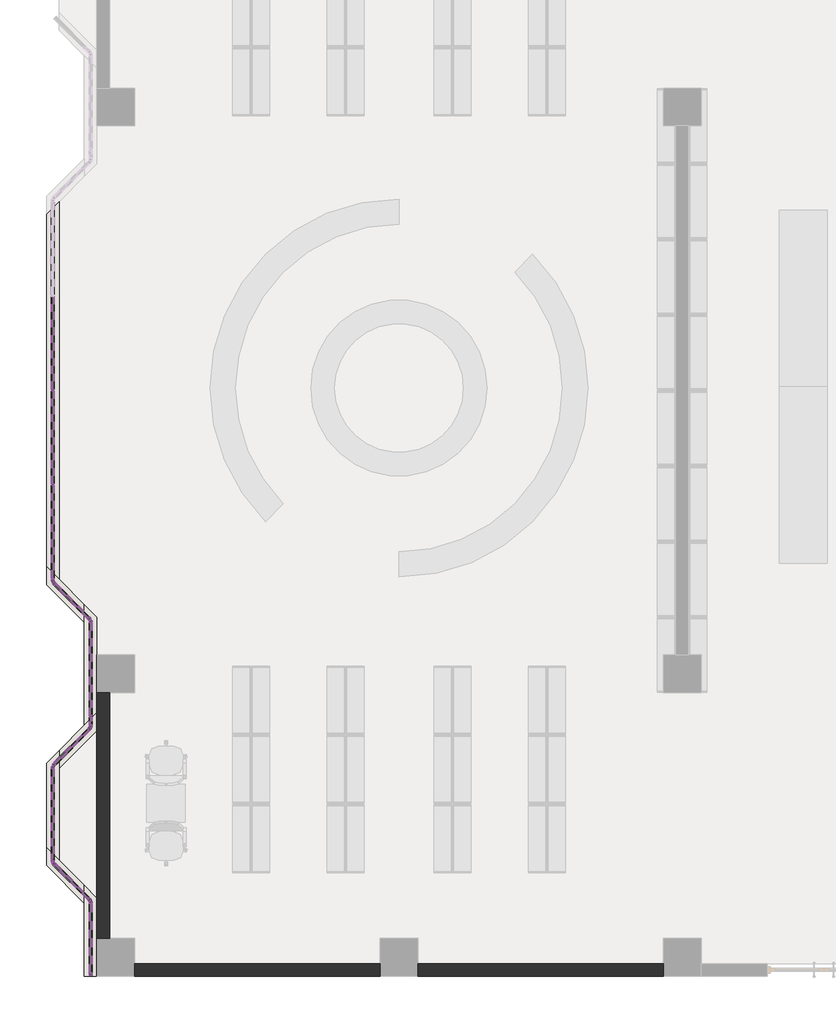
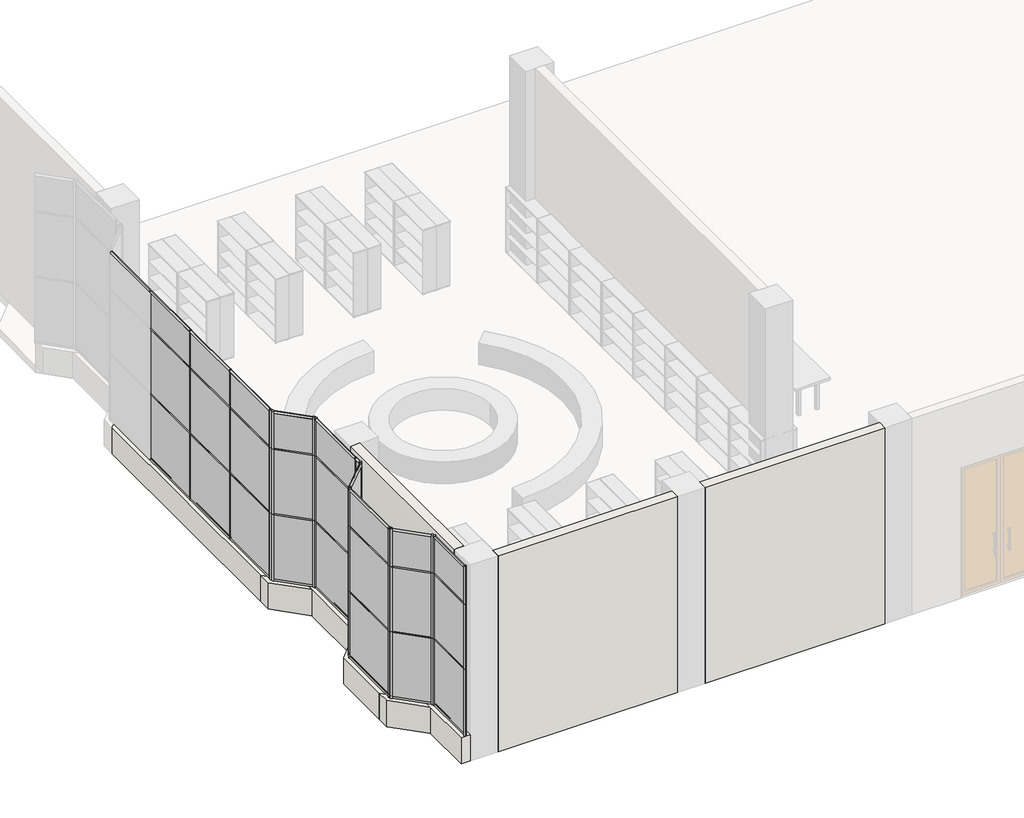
# One storey, part 1 of 6: 95 members, 30 plates, 10 walls.
"""IFC4 building model written with IfcOpenShell, lengths in millimetres."""

from ifc_helpers import new_model, si_unit, origin, origin_with_axes, place, context, project, spatial, polyline, outline, extrude, faceted_brep, transform, mapped, element, save
from components import member_cb4e50c7, member_f3a61f5a, member_936fc316, member_ce826986, member_b2874c62, member_844fc7d1, member_a19ce0de, member_3b68bbe8, member_416e91fe, member_e4634f50, member_39920356, member_1f987d58, member_65f70824, member_5b67f58a, plate_1ca0cd63, plate_9a7d06eb, plate_54ac635d, plate_9a913afb, plate_37a4c68e, plate_a56820a4, plate_a414dcb1, plate_d4bc9f12

model = new_model("IFC4")

# Units and contexts
model_context = context("Model", 3, world=origin())
ifc_project = project(units=[si_unit("LENGTHUNIT", "METRE", prefix="MILLI")], contexts=[model_context])

# Site, building, storey
site = spatial("IfcSite", under=ifc_project)
building = spatial("IfcBuilding", under=site)
storey = spatial("IfcBuildingStorey", under=building, Name="标高 1", Elevation=0.0)

# Members
placement = place(None, origin())
member_shape = member_cb4e50c7(model_context)
element("IfcMember", 1, ObjectType="圆形竖梃 : 25mm 半径", at=placement, inside=storey, context=model_context, shape_type="MappedRepresentation", body=[
    mapped(member_shape, transform((-8832.6683839, -11875.464179, 4500.0), x_axis=(0.0, 0.0, 1.0), y_axis=(-1.0, 0.0, 0.0), z_axis=(0.0, -1.0, 0.0))),
])
element("IfcMember", 2, ObjectType="圆形竖梃 : 25mm 半径", at=placement, inside=storey, context=model_context, shape_type="MappedRepresentation", body=[
    mapped(member_shape, transform((-8832.6683839, -10775.464179, 600.0), x_axis=(0.0, 0.0, -1.0), y_axis=(-1.0, 0.0, 0.0), z_axis=(0.0, 1.0, 0.0))),
])
member_2_shape = member_f3a61f5a(model_context)
element("IfcMember", 3, ObjectType="矩形竖梃 : 30mm 正方形", at=placement, inside=storey, context=model_context, shape_type="MappedRepresentation", body=[
    mapped(member_2_shape, transform((-8832.6683839, -11875.464179, 2135.0), x_axis=(0.0, 0.0, 1.0), y_axis=(-1.0, 0.0, 0.0), z_axis=(0.0, -1.0, 0.0))),
])
element("IfcMember", 4, ObjectType="矩形竖梃 : 30mm 正方形", at=placement, inside=storey, context=model_context, shape_type="MappedRepresentation", body=[
    mapped(member_2_shape, transform((-8832.6683839, -11875.464179, 3635.0), x_axis=(0.0, 0.0, 1.0), y_axis=(-1.0, 0.0, 0.0), z_axis=(0.0, -1.0, 0.0))),
])
member_3_shape = member_936fc316(model_context)
element("IfcMember", 5, ObjectType="圆形竖梃 : 25mm 半径", at=placement, inside=storey, context=model_context, shape_type="MappedRepresentation", body=[
    mapped(member_3_shape, transform((-9432.6683839, -5666.8855353, 600.0), x_axis=(0.0, -1.0, 0.0), y_axis=(-1.0, 0.0, 0.0), z_axis=(0.0, 0.0, -1.0))),
])
element("IfcMember", 6, ObjectType="圆形竖梃 : 25mm 半径", at=placement, inside=storey, context=model_context, shape_type="MappedRepresentation", body=[
    mapped(member_3_shape, transform((-8832.6683839, -6266.8855353, 600.0), x_axis=(0.7071067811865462, -0.7071067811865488, 0.0), y_axis=(-0.7071067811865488, -0.7071067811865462, 0.0), z_axis=(0.0, 0.0, -1.0))),
])
element("IfcMember", 7, ObjectType="圆形竖梃 : 25mm 半径", at=placement, inside=storey, context=model_context, shape_type="MappedRepresentation", body=[
    mapped(member_3_shape, transform((-8832.6683839, -7984.0428228, 600.0), x_axis=(0.0, -1.0, 0.0), y_axis=(-1.0, 0.0, 0.0), z_axis=(0.0, 0.0, -1.0))),
])
element("IfcMember", 8, ObjectType="圆形竖梃 : 25mm 半径", at=placement, inside=storey, context=model_context, shape_type="MappedRepresentation", body=[
    mapped(member_3_shape, transform((-9432.6683839, -8584.0428228, 600.0), x_axis=(-0.7071067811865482, -0.7071067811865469, 0.0), y_axis=(-0.7071067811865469, 0.7071067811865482, 0.0), z_axis=(0.0, 0.0, -1.0))),
])
element("IfcMember", 9, ObjectType="圆形竖梃 : 25mm 半径", at=placement, inside=storey, context=model_context, shape_type="MappedRepresentation", body=[
    mapped(member_3_shape, transform((-8832.6683839, -10725.464179, 600.0), x_axis=(0.7071067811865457, -0.7071067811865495, 0.0), y_axis=(-0.7071067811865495, -0.7071067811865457, 0.0), z_axis=(0.0, 0.0, -1.0))),
])
element("IfcMember", 10, ObjectType="圆形竖梃 : 25mm 半径", at=placement, inside=storey, context=model_context, shape_type="MappedRepresentation", body=[
    mapped(member_3_shape, transform((-8832.6683839, -11925.464179, 600.0), x_axis=(0.0, -1.0, 0.0), y_axis=(-1.0, 0.0, 0.0), z_axis=(0.0, 0.0, -1.0))),
])
member_4_shape = member_ce826986(model_context)
element("IfcMember", 11, ObjectType="圆形竖梃 : 25mm 半径", at=placement, inside=storey, context=model_context, shape_type="MappedRepresentation", body=[
    mapped(member_4_shape, transform((-9432.6683839, -5666.8855353, 2135.0), x_axis=(0.0, -1.0, 0.0), y_axis=(-1.0, 0.0, 0.0), z_axis=(0.0, 0.0, -1.0))),
])
element("IfcMember", 12, ObjectType="圆形竖梃 : 25mm 半径", at=placement, inside=storey, context=model_context, shape_type="MappedRepresentation", body=[
    mapped(member_4_shape, transform((-8832.6683839, -6266.8855353, 2135.0), x_axis=(0.7071067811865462, -0.7071067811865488, 0.0), y_axis=(-0.7071067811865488, -0.7071067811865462, 0.0), z_axis=(0.0, 0.0, -1.0))),
])
element("IfcMember", 13, ObjectType="圆形竖梃 : 25mm 半径", at=placement, inside=storey, context=model_context, shape_type="MappedRepresentation", body=[
    mapped(member_4_shape, transform((-8832.6683839, -7984.0428228, 2135.0), x_axis=(0.0, -1.0, 0.0), y_axis=(-1.0, 0.0, 0.0), z_axis=(0.0, 0.0, -1.0))),
])
element("IfcMember", 14, ObjectType="圆形竖梃 : 25mm 半径", at=placement, inside=storey, context=model_context, shape_type="MappedRepresentation", body=[
    mapped(member_4_shape, transform((-9432.6683839, -8584.0428228, 2135.0), x_axis=(-0.7071067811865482, -0.7071067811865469, 0.0), y_axis=(-0.7071067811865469, 0.7071067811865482, 0.0), z_axis=(0.0, 0.0, -1.0))),
])
element("IfcMember", 15, ObjectType="圆形竖梃 : 25mm 半径", at=placement, inside=storey, context=model_context, shape_type="MappedRepresentation", body=[
    mapped(member_4_shape, transform((-8832.6683839, -10725.464179, 2135.0), x_axis=(0.7071067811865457, -0.7071067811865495, 0.0), y_axis=(-0.7071067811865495, -0.7071067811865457, 0.0), z_axis=(0.0, 0.0, -1.0))),
])
element("IfcMember", 16, ObjectType="圆形竖梃 : 25mm 半径", at=placement, inside=storey, context=model_context, shape_type="MappedRepresentation", body=[
    mapped(member_4_shape, transform((-8832.6683839, -11925.464179, 2135.0), x_axis=(0.0, -1.0, 0.0), y_axis=(-1.0, 0.0, 0.0), z_axis=(0.0, 0.0, -1.0))),
])
member_5_shape = member_b2874c62(model_context)
element("IfcMember", 17, ObjectType="圆形竖梃 : 25mm 半径", at=placement, inside=storey, context=model_context, shape_type="MappedRepresentation", body=[
    mapped(member_5_shape, transform((-9432.6683839, -5666.8855353, 3635.0), x_axis=(0.0, -1.0, 0.0), y_axis=(-1.0, 0.0, 0.0), z_axis=(0.0, 0.0, -1.0))),
])
element("IfcMember", 18, ObjectType="圆形竖梃 : 25mm 半径", at=placement, inside=storey, context=model_context, shape_type="MappedRepresentation", body=[
    mapped(member_5_shape, transform((-8832.6683839, -6266.8855353, 3635.0), x_axis=(0.7071067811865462, -0.7071067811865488, 0.0), y_axis=(-0.7071067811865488, -0.7071067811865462, 0.0), z_axis=(0.0, 0.0, -1.0))),
])
element("IfcMember", 19, ObjectType="圆形竖梃 : 25mm 半径", at=placement, inside=storey, context=model_context, shape_type="MappedRepresentation", body=[
    mapped(member_5_shape, transform((-8832.6683839, -7984.0428228, 3635.0), x_axis=(0.0, -1.0, 0.0), y_axis=(-1.0, 0.0, 0.0), z_axis=(0.0, 0.0, -1.0))),
])
element("IfcMember", 20, ObjectType="圆形竖梃 : 25mm 半径", at=placement, inside=storey, context=model_context, shape_type="MappedRepresentation", body=[
    mapped(member_5_shape, transform((-9432.6683839, -8584.0428228, 3635.0), x_axis=(-0.7071067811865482, -0.7071067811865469, 0.0), y_axis=(-0.7071067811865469, 0.7071067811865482, 0.0), z_axis=(0.0, 0.0, -1.0))),
])
element("IfcMember", 21, ObjectType="圆形竖梃 : 25mm 半径", at=placement, inside=storey, context=model_context, shape_type="MappedRepresentation", body=[
    mapped(member_5_shape, transform((-8832.6683839, -10725.464179, 3635.0), x_axis=(0.7071067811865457, -0.7071067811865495, 0.0), y_axis=(-0.7071067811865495, -0.7071067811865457, 0.0), z_axis=(0.0, 0.0, -1.0))),
])
element("IfcMember", 22, ObjectType="圆形竖梃 : 25mm 半径", at=placement, inside=storey, context=model_context, shape_type="MappedRepresentation", body=[
    mapped(member_5_shape, transform((-8832.6683839, -11925.464179, 3635.0), x_axis=(0.0, -1.0, 0.0), y_axis=(-1.0, 0.0, 0.0), z_axis=(0.0, 0.0, -1.0))),
])
element("IfcMember", 23, ObjectType="圆形竖梃 : 25mm 半径", at=placement, inside=storey, context=model_context, shape_type="MappedRepresentation", body=[
    mapped(member_5_shape, transform((-9432.6683839, -5666.8855353, 4500.0), x_axis=(-0.7071067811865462, 0.7071067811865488, 0.0), y_axis=(-0.7071067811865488, -0.7071067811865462, 0.0), z_axis=(0.0, 0.0, 1.0))),
])
element("IfcMember", 24, ObjectType="圆形竖梃 : 25mm 半径", at=placement, inside=storey, context=model_context, shape_type="MappedRepresentation", body=[
    mapped(member_5_shape, transform((-8832.6683839, -6266.8855353, 4500.0), x_axis=(0.0, 1.0, 0.0), y_axis=(-1.0, 0.0, 0.0), z_axis=(0.0, 0.0, 1.0))),
])
element("IfcMember", 25, ObjectType="圆形竖梃 : 25mm 半径", at=placement, inside=storey, context=model_context, shape_type="MappedRepresentation", body=[
    mapped(member_5_shape, transform((-8832.6683839, -7984.0428228, 4500.0), x_axis=(0.7071067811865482, 0.7071067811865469, 0.0), y_axis=(-0.7071067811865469, 0.7071067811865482, 0.0), z_axis=(0.0, 0.0, 1.0))),
])
element("IfcMember", 26, ObjectType="圆形竖梃 : 25mm 半径", at=placement, inside=storey, context=model_context, shape_type="MappedRepresentation", body=[
    mapped(member_5_shape, transform((-9432.6683839, -8584.0428228, 4500.0), x_axis=(0.0, 1.0, 0.0), y_axis=(-1.0, 0.0, 0.0), z_axis=(0.0, 0.0, 1.0))),
])
element("IfcMember", 27, ObjectType="圆形竖梃 : 25mm 半径", at=placement, inside=storey, context=model_context, shape_type="MappedRepresentation", body=[
    mapped(member_5_shape, transform((-9432.6683839, -10125.464179, 4500.0), x_axis=(-0.7071067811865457, 0.7071067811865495, 0.0), y_axis=(-0.7071067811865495, -0.7071067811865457, 0.0), z_axis=(0.0, 0.0, 1.0))),
])
element("IfcMember", 28, ObjectType="圆形竖梃 : 25mm 半径", at=placement, inside=storey, context=model_context, shape_type="MappedRepresentation", body=[
    mapped(member_5_shape, transform((-8832.6683839, -10725.464179, 4500.0), x_axis=(0.0, 1.0, 0.0), y_axis=(-1.0, 0.0, 0.0), z_axis=(0.0, 0.0, 1.0))),
])
element("IfcMember", 29, ObjectType="圆形竖梃 : 25mm 半径", at=placement, inside=storey, context=model_context, shape_type="MappedRepresentation", body=[
    mapped(member_3_shape, transform((-9432.6683839, -5666.8855353, 2135.0), x_axis=(-0.7071067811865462, 0.7071067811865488, 0.0), y_axis=(-0.7071067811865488, -0.7071067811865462, 0.0), z_axis=(0.0, 0.0, 1.0))),
])
element("IfcMember", 30, ObjectType="圆形竖梃 : 25mm 半径", at=placement, inside=storey, context=model_context, shape_type="MappedRepresentation", body=[
    mapped(member_3_shape, transform((-8832.6683839, -6266.8855353, 2135.0), x_axis=(0.0, 1.0, 0.0), y_axis=(-1.0, 0.0, 0.0), z_axis=(0.0, 0.0, 1.0))),
])
element("IfcMember", 31, ObjectType="圆形竖梃 : 25mm 半径", at=placement, inside=storey, context=model_context, shape_type="MappedRepresentation", body=[
    mapped(member_3_shape, transform((-8832.6683839, -7984.0428228, 2135.0), x_axis=(0.7071067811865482, 0.7071067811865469, 0.0), y_axis=(-0.7071067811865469, 0.7071067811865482, 0.0), z_axis=(0.0, 0.0, 1.0))),
])
element("IfcMember", 32, ObjectType="圆形竖梃 : 25mm 半径", at=placement, inside=storey, context=model_context, shape_type="MappedRepresentation", body=[
    mapped(member_3_shape, transform((-9432.6683839, -8584.0428228, 2135.0), x_axis=(0.0, 1.0, 0.0), y_axis=(-1.0, 0.0, 0.0), z_axis=(0.0, 0.0, 1.0))),
])
element("IfcMember", 33, ObjectType="圆形竖梃 : 25mm 半径", at=placement, inside=storey, context=model_context, shape_type="MappedRepresentation", body=[
    mapped(member_3_shape, transform((-9432.6683839, -10125.464179, 2135.0), x_axis=(-0.7071067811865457, 0.7071067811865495, 0.0), y_axis=(-0.7071067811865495, -0.7071067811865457, 0.0), z_axis=(0.0, 0.0, 1.0))),
])
element("IfcMember", 34, ObjectType="圆形竖梃 : 25mm 半径", at=placement, inside=storey, context=model_context, shape_type="MappedRepresentation", body=[
    mapped(member_3_shape, transform((-8832.6683839, -10725.464179, 2135.0), x_axis=(0.0, 1.0, 0.0), y_axis=(-1.0, 0.0, 0.0), z_axis=(0.0, 0.0, 1.0))),
])
element("IfcMember", 35, ObjectType="圆形竖梃 : 25mm 半径", at=placement, inside=storey, context=model_context, shape_type="MappedRepresentation", body=[
    mapped(member_4_shape, transform((-9432.6683839, -5666.8855353, 3635.0), x_axis=(-0.7071067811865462, 0.7071067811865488, 0.0), y_axis=(-0.7071067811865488, -0.7071067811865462, 0.0), z_axis=(0.0, 0.0, 1.0))),
])
element("IfcMember", 36, ObjectType="圆形竖梃 : 25mm 半径", at=placement, inside=storey, context=model_context, shape_type="MappedRepresentation", body=[
    mapped(member_4_shape, transform((-8832.6683839, -6266.8855353, 3635.0), x_axis=(0.0, 1.0, 0.0), y_axis=(-1.0, 0.0, 0.0), z_axis=(0.0, 0.0, 1.0))),
])
element("IfcMember", 37, ObjectType="圆形竖梃 : 25mm 半径", at=placement, inside=storey, context=model_context, shape_type="MappedRepresentation", body=[
    mapped(member_4_shape, transform((-8832.6683839, -7984.0428228, 3635.0), x_axis=(0.7071067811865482, 0.7071067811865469, 0.0), y_axis=(-0.7071067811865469, 0.7071067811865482, 0.0), z_axis=(0.0, 0.0, 1.0))),
])
element("IfcMember", 38, ObjectType="圆形竖梃 : 25mm 半径", at=placement, inside=storey, context=model_context, shape_type="MappedRepresentation", body=[
    mapped(member_4_shape, transform((-9432.6683839, -8584.0428228, 3635.0), x_axis=(0.0, 1.0, 0.0), y_axis=(-1.0, 0.0, 0.0), z_axis=(0.0, 0.0, 1.0))),
])
element("IfcMember", 39, ObjectType="圆形竖梃 : 25mm 半径", at=placement, inside=storey, context=model_context, shape_type="MappedRepresentation", body=[
    mapped(member_4_shape, transform((-9432.6683839, -10125.464179, 3635.0), x_axis=(-0.7071067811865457, 0.7071067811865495, 0.0), y_axis=(-0.7071067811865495, -0.7071067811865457, 0.0), z_axis=(0.0, 0.0, 1.0))),
])
element("IfcMember", 40, ObjectType="圆形竖梃 : 25mm 半径", at=placement, inside=storey, context=model_context, shape_type="MappedRepresentation", body=[
    mapped(member_4_shape, transform((-8832.6683839, -10725.464179, 3635.0), x_axis=(0.0, 1.0, 0.0), y_axis=(-1.0, 0.0, 0.0), z_axis=(0.0, 0.0, 1.0))),
])
member_6_shape = member_844fc7d1(model_context)
element("IfcMember", 41, ObjectType="圆形竖梃 : 25mm 半径", at=placement, inside=storey, context=model_context, shape_type="MappedRepresentation", body=[
    mapped(member_6_shape, transform((-8868.023723, -6231.5301962, 4500.0), x_axis=(0.0, 0.0, 1.0), y_axis=(-0.7071067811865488, -0.7071067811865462, 0.0), z_axis=(0.7071067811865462, -0.7071067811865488, 0.0))),
])
element("IfcMember", 42, ObjectType="圆形竖梃 : 25mm 半径", at=placement, inside=storey, context=model_context, shape_type="MappedRepresentation", body=[
    mapped(member_6_shape, transform((-9397.3130449, -8548.6874837, 4500.0), x_axis=(0.0, 0.0, 1.0), y_axis=(-0.7071067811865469, 0.7071067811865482, 0.0), z_axis=(-0.7071067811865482, -0.7071067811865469, 0.0))),
])
element("IfcMember", 43, ObjectType="圆形竖梃 : 25mm 半径", at=placement, inside=storey, context=model_context, shape_type="MappedRepresentation", body=[
    mapped(member_6_shape, transform((-8868.023723, -10690.10884, 4500.0), x_axis=(0.0, 0.0, 1.0), y_axis=(-0.7071067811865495, -0.7071067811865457, 0.0), z_axis=(0.7071067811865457, -0.7071067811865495, 0.0))),
])
element("IfcMember", 44, ObjectType="圆形竖梃 : 25mm 半径", at=placement, inside=storey, context=model_context, shape_type="MappedRepresentation", body=[
    mapped(member_6_shape, transform((-9397.3130449, -5702.2408743, 600.0), x_axis=(0.0, 0.0, -1.0), y_axis=(-0.7071067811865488, -0.7071067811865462, 0.0), z_axis=(-0.7071067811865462, 0.7071067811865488, 0.0))),
])
element("IfcMember", 45, ObjectType="圆形竖梃 : 25mm 半径", at=placement, inside=storey, context=model_context, shape_type="MappedRepresentation", body=[
    mapped(member_6_shape, transform((-8868.023723, -8019.3981618, 600.0), x_axis=(0.0, 0.0, -1.0), y_axis=(-0.7071067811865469, 0.7071067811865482, 0.0), z_axis=(0.7071067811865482, 0.7071067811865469, 0.0))),
])
element("IfcMember", 46, ObjectType="圆形竖梃 : 25mm 半径", at=placement, inside=storey, context=model_context, shape_type="MappedRepresentation", body=[
    mapped(member_6_shape, transform((-9397.3130449, -10160.8195181, 600.0), x_axis=(0.0, 0.0, -1.0), y_axis=(-0.7071067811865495, -0.7071067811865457, 0.0), z_axis=(-0.7071067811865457, 0.7071067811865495, 0.0))),
])
member_7_shape = member_a19ce0de(model_context)
element("IfcMember", 47, ObjectType="矩形竖梃 : 30mm 正方形", at=placement, inside=storey, context=model_context, shape_type="MappedRepresentation", body=[
    mapped(member_7_shape, transform((-8868.023723, -6231.5301962, 2135.0), x_axis=(0.0, 0.0, 1.0), y_axis=(-0.7071067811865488, -0.7071067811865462, 0.0), z_axis=(0.7071067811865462, -0.7071067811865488, 0.0))),
])
element("IfcMember", 48, ObjectType="矩形竖梃 : 30mm 正方形", at=placement, inside=storey, context=model_context, shape_type="MappedRepresentation", body=[
    mapped(member_7_shape, transform((-8868.023723, -6231.5301962, 3635.0), x_axis=(0.0, 0.0, 1.0), y_axis=(-0.7071067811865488, -0.7071067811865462, 0.0), z_axis=(0.7071067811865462, -0.7071067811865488, 0.0))),
])
element("IfcMember", 49, ObjectType="矩形竖梃 : 30mm 正方形", at=placement, inside=storey, context=model_context, shape_type="MappedRepresentation", body=[
    mapped(member_7_shape, transform((-9397.3130449, -8548.6874837, 2135.0), x_axis=(0.0, 0.0, 1.0), y_axis=(-0.7071067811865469, 0.7071067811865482, 0.0), z_axis=(-0.7071067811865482, -0.7071067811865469, 0.0))),
])
element("IfcMember", 50, ObjectType="矩形竖梃 : 30mm 正方形", at=placement, inside=storey, context=model_context, shape_type="MappedRepresentation", body=[
    mapped(member_7_shape, transform((-9397.3130449, -8548.6874837, 3635.0), x_axis=(0.0, 0.0, 1.0), y_axis=(-0.7071067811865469, 0.7071067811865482, 0.0), z_axis=(-0.7071067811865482, -0.7071067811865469, 0.0))),
])
element("IfcMember", 51, ObjectType="矩形竖梃 : 30mm 正方形", at=placement, inside=storey, context=model_context, shape_type="MappedRepresentation", body=[
    mapped(member_7_shape, transform((-8868.023723, -10690.10884, 2135.0), x_axis=(0.0, 0.0, 1.0), y_axis=(-0.7071067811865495, -0.7071067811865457, 0.0), z_axis=(0.7071067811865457, -0.7071067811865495, 0.0))),
])
element("IfcMember", 52, ObjectType="矩形竖梃 : 30mm 正方形", at=placement, inside=storey, context=model_context, shape_type="MappedRepresentation", body=[
    mapped(member_7_shape, transform((-8868.023723, -10690.10884, 3635.0), x_axis=(0.0, 0.0, 1.0), y_axis=(-0.7071067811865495, -0.7071067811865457, 0.0), z_axis=(0.7071067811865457, -0.7071067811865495, 0.0))),
])
member_8_shape = member_3b68bbe8(model_context)
element("IfcMember", 53, ObjectType="圆形竖梃 : 25mm 半径", at=placement, inside=storey, context=model_context, shape_type="MappedRepresentation", body=[
    mapped(member_8_shape, transform((-9432.6683839, -1104.0428231, 4500.0), x_axis=(0.0, 0.0, 1.0), y_axis=(-1.0, 0.0, 0.0), z_axis=(0.0, -1.0, 0.0))),
])
element("IfcMember", 54, ObjectType="圆形竖梃 : 25mm 半径", at=placement, inside=storey, context=model_context, shape_type="MappedRepresentation", body=[
    mapped(member_8_shape, transform((-9432.6683839, -2604.0428231, 4500.0), x_axis=(0.0, 0.0, 1.0), y_axis=(-1.0, 0.0, 0.0), z_axis=(0.0, -1.0, 0.0))),
])
element("IfcMember", 55, ObjectType="圆形竖梃 : 25mm 半径", at=placement, inside=storey, context=model_context, shape_type="MappedRepresentation", body=[
    mapped(member_8_shape, transform((-9432.6683839, -4104.0428231, 4500.0), x_axis=(0.0, 0.0, 1.0), y_axis=(-1.0, 0.0, 0.0), z_axis=(0.0, -1.0, 0.0))),
])
element("IfcMember", 56, ObjectType="圆形竖梃 : 25mm 半径", at=placement, inside=storey, context=model_context, shape_type="MappedRepresentation", body=[
    mapped(member_8_shape, transform((-9432.6683839, -5604.0428231, 4500.0), x_axis=(0.0, 0.0, 1.0), y_axis=(-1.0, 0.0, 0.0), z_axis=(0.0, -1.0, 0.0))),
])
element("IfcMember", 57, ObjectType="圆形竖梃 : 25mm 半径", at=placement, inside=storey, context=model_context, shape_type="MappedRepresentation", body=[
    mapped(member_8_shape, transform((-8832.6683839, -7786.8855356, 4500.0), x_axis=(0.0, 0.0, 1.0), y_axis=(-1.0, 0.0, 0.0), z_axis=(0.0, -1.0, 0.0))),
])
element("IfcMember", 58, ObjectType="圆形竖梃 : 25mm 半径", at=placement, inside=storey, context=model_context, shape_type="MappedRepresentation", body=[
    mapped(member_8_shape, transform((-9432.6683839, -10104.0428231, 4500.0), x_axis=(0.0, 0.0, 1.0), y_axis=(-1.0, 0.0, 0.0), z_axis=(0.0, -1.0, 0.0))),
])
element("IfcMember", 59, ObjectType="圆形竖梃 : 25mm 半径", at=placement, inside=storey, context=model_context, shape_type="MappedRepresentation", body=[
    mapped(member_8_shape, transform((-9432.6683839, -1134.0428231, 600.0), x_axis=(0.0, 0.0, -1.0), y_axis=(-1.0, 0.0, 0.0), z_axis=(0.0, 1.0, 0.0))),
])
element("IfcMember", 60, ObjectType="圆形竖梃 : 25mm 半径", at=placement, inside=storey, context=model_context, shape_type="MappedRepresentation", body=[
    mapped(member_8_shape, transform((-9432.6683839, -2634.0428231, 600.0), x_axis=(0.0, 0.0, -1.0), y_axis=(-1.0, 0.0, 0.0), z_axis=(0.0, 1.0, 0.0))),
])
element("IfcMember", 61, ObjectType="圆形竖梃 : 25mm 半径", at=placement, inside=storey, context=model_context, shape_type="MappedRepresentation", body=[
    mapped(member_8_shape, transform((-9432.6683839, -4134.0428231, 600.0), x_axis=(0.0, 0.0, -1.0), y_axis=(-1.0, 0.0, 0.0), z_axis=(0.0, 1.0, 0.0))),
])
element("IfcMember", 62, ObjectType="圆形竖梃 : 25mm 半径", at=placement, inside=storey, context=model_context, shape_type="MappedRepresentation", body=[
    mapped(member_8_shape, transform((-8832.6683839, -6316.8855353, 600.0), x_axis=(0.0, 0.0, -1.0), y_axis=(-1.0, 0.0, 0.0), z_axis=(0.0, 1.0, 0.0))),
])
element("IfcMember", 63, ObjectType="圆形竖梃 : 25mm 半径", at=placement, inside=storey, context=model_context, shape_type="MappedRepresentation", body=[
    mapped(member_8_shape, transform((-9432.6683839, -8634.0428228, 600.0), x_axis=(0.0, 0.0, -1.0), y_axis=(-1.0, 0.0, 0.0), z_axis=(0.0, 1.0, 0.0))),
])
member_9_shape = member_416e91fe(model_context)
element("IfcMember", 64, ObjectType="矩形竖梃 : 30mm 正方形", at=placement, inside=storey, context=model_context, shape_type="MappedRepresentation", body=[
    mapped(member_9_shape, transform((-9432.6683839, -2604.0428231, 2135.0), x_axis=(0.0, 0.0, 1.0), y_axis=(-1.0, 0.0, 0.0), z_axis=(0.0, -1.0, 0.0))),
])
element("IfcMember", 65, ObjectType="矩形竖梃 : 30mm 正方形", at=placement, inside=storey, context=model_context, shape_type="MappedRepresentation", body=[
    mapped(member_9_shape, transform((-9432.6683839, -4104.0428231, 2135.0), x_axis=(0.0, 0.0, 1.0), y_axis=(-1.0, 0.0, 0.0), z_axis=(0.0, -1.0, 0.0))),
])
element("IfcMember", 66, ObjectType="矩形竖梃 : 30mm 正方形", at=placement, inside=storey, context=model_context, shape_type="MappedRepresentation", body=[
    mapped(member_9_shape, transform((-9432.6683839, -5604.0428231, 2135.0), x_axis=(0.0, 0.0, 1.0), y_axis=(-1.0, 0.0, 0.0), z_axis=(0.0, -1.0, 0.0))),
])
element("IfcMember", 67, ObjectType="矩形竖梃 : 30mm 正方形", at=placement, inside=storey, context=model_context, shape_type="MappedRepresentation", body=[
    mapped(member_9_shape, transform((-9432.6683839, -2604.0428231, 3635.0), x_axis=(0.0, 0.0, 1.0), y_axis=(-1.0, 0.0, 0.0), z_axis=(0.0, -1.0, 0.0))),
])
element("IfcMember", 68, ObjectType="矩形竖梃 : 30mm 正方形", at=placement, inside=storey, context=model_context, shape_type="MappedRepresentation", body=[
    mapped(member_9_shape, transform((-9432.6683839, -4104.0428231, 3635.0), x_axis=(0.0, 0.0, 1.0), y_axis=(-1.0, 0.0, 0.0), z_axis=(0.0, -1.0, 0.0))),
])
element("IfcMember", 69, ObjectType="矩形竖梃 : 30mm 正方形", at=placement, inside=storey, context=model_context, shape_type="MappedRepresentation", body=[
    mapped(member_9_shape, transform((-9432.6683839, -5604.0428231, 3635.0), x_axis=(0.0, 0.0, 1.0), y_axis=(-1.0, 0.0, 0.0), z_axis=(0.0, -1.0, 0.0))),
])
element("IfcMember", 70, ObjectType="矩形竖梃 : 30mm 正方形", at=placement, inside=storey, context=model_context, shape_type="MappedRepresentation", body=[
    mapped(member_9_shape, transform((-8832.6683839, -7786.8855356, 2135.0), x_axis=(0.0, 0.0, 1.0), y_axis=(-1.0, 0.0, 0.0), z_axis=(0.0, -1.0, 0.0))),
])
element("IfcMember", 71, ObjectType="矩形竖梃 : 30mm 正方形", at=placement, inside=storey, context=model_context, shape_type="MappedRepresentation", body=[
    mapped(member_9_shape, transform((-8832.6683839, -7786.8855356, 3635.0), x_axis=(0.0, 0.0, 1.0), y_axis=(-1.0, 0.0, 0.0), z_axis=(0.0, -1.0, 0.0))),
])
element("IfcMember", 72, ObjectType="矩形竖梃 : 30mm 正方形", at=placement, inside=storey, context=model_context, shape_type="MappedRepresentation", body=[
    mapped(member_9_shape, transform((-9432.6683839, -10104.0428231, 2135.0), x_axis=(0.0, 0.0, 1.0), y_axis=(-1.0, 0.0, 0.0), z_axis=(0.0, -1.0, 0.0))),
])
element("IfcMember", 73, ObjectType="矩形竖梃 : 30mm 正方形", at=placement, inside=storey, context=model_context, shape_type="MappedRepresentation", body=[
    mapped(member_9_shape, transform((-9432.6683839, -10104.0428231, 3635.0), x_axis=(0.0, 0.0, 1.0), y_axis=(-1.0, 0.0, 0.0), z_axis=(0.0, -1.0, 0.0))),
])
member_10_shape = member_e4634f50(model_context)
element("IfcMember", 74, ObjectType="矩形竖梃 : 30mm 正方形", at=placement, inside=storey, context=model_context, shape_type="MappedRepresentation", body=[
    mapped(member_10_shape, transform((-9432.6683839, -2619.0428231, 600.0), x_axis=(0.0, -1.0, 0.0), y_axis=(-1.0, 0.0, 0.0), z_axis=(0.0, 0.0, -1.0))),
])
element("IfcMember", 75, ObjectType="矩形竖梃 : 30mm 正方形", at=placement, inside=storey, context=model_context, shape_type="MappedRepresentation", body=[
    mapped(member_10_shape, transform((-9432.6683839, -4119.0428231, 600.0), x_axis=(0.0, -1.0, 0.0), y_axis=(-1.0, 0.0, 0.0), z_axis=(0.0, 0.0, -1.0))),
])
element("IfcMember", 76, ObjectType="矩形竖梃 : 30mm 正方形", at=placement, inside=storey, context=model_context, shape_type="MappedRepresentation", body=[
    mapped(member_10_shape, transform((-9432.6683839, -5619.0428231, 600.0), x_axis=(0.0, -1.0, 0.0), y_axis=(-1.0, 0.0, 0.0), z_axis=(0.0, 0.0, -1.0))),
])
element("IfcMember", 77, ObjectType="矩形竖梃 : 30mm 正方形", at=placement, inside=storey, context=model_context, shape_type="MappedRepresentation", body=[
    mapped(member_10_shape, transform((-8832.6683839, -7801.8855356, 600.0), x_axis=(0.0, -1.0, 0.0), y_axis=(-1.0, 0.0, 0.0), z_axis=(0.0, 0.0, -1.0))),
])
element("IfcMember", 78, ObjectType="矩形竖梃 : 30mm 正方形", at=placement, inside=storey, context=model_context, shape_type="MappedRepresentation", body=[
    mapped(member_10_shape, transform((-9432.6683839, -10119.0428231, 600.0), x_axis=(0.0, -1.0, 0.0), y_axis=(-1.0, 0.0, 0.0), z_axis=(0.0, 0.0, -1.0))),
])
member_11_shape = member_39920356(model_context)
element("IfcMember", 79, ObjectType="矩形竖梃 : 30mm 正方形", at=placement, inside=storey, context=model_context, shape_type="MappedRepresentation", body=[
    mapped(member_11_shape, transform((-9432.6683839, -2619.0428231, 2135.0), x_axis=(0.0, -1.0, 0.0), y_axis=(-1.0, 0.0, 0.0), z_axis=(0.0, 0.0, -1.0))),
])
element("IfcMember", 80, ObjectType="矩形竖梃 : 30mm 正方形", at=placement, inside=storey, context=model_context, shape_type="MappedRepresentation", body=[
    mapped(member_11_shape, transform((-9432.6683839, -4119.0428231, 2135.0), x_axis=(0.0, -1.0, 0.0), y_axis=(-1.0, 0.0, 0.0), z_axis=(0.0, 0.0, -1.0))),
])
element("IfcMember", 81, ObjectType="矩形竖梃 : 30mm 正方形", at=placement, inside=storey, context=model_context, shape_type="MappedRepresentation", body=[
    mapped(member_11_shape, transform((-9432.6683839, -5619.0428231, 2135.0), x_axis=(0.0, -1.0, 0.0), y_axis=(-1.0, 0.0, 0.0), z_axis=(0.0, 0.0, -1.0))),
])
element("IfcMember", 82, ObjectType="矩形竖梃 : 30mm 正方形", at=placement, inside=storey, context=model_context, shape_type="MappedRepresentation", body=[
    mapped(member_11_shape, transform((-8832.6683839, -7801.8855356, 2135.0), x_axis=(0.0, -1.0, 0.0), y_axis=(-1.0, 0.0, 0.0), z_axis=(0.0, 0.0, -1.0))),
])
element("IfcMember", 83, ObjectType="矩形竖梃 : 30mm 正方形", at=placement, inside=storey, context=model_context, shape_type="MappedRepresentation", body=[
    mapped(member_11_shape, transform((-9432.6683839, -10119.0428231, 2135.0), x_axis=(0.0, -1.0, 0.0), y_axis=(-1.0, 0.0, 0.0), z_axis=(0.0, 0.0, -1.0))),
])
member_12_shape = member_1f987d58(model_context)
element("IfcMember", 84, ObjectType="矩形竖梃 : 30mm 正方形", at=placement, inside=storey, context=model_context, shape_type="MappedRepresentation", body=[
    mapped(member_12_shape, transform((-9432.6683839, -2619.0428231, 3635.0), x_axis=(0.0, -1.0, 0.0), y_axis=(-1.0, 0.0, 0.0), z_axis=(0.0, 0.0, -1.0))),
])
element("IfcMember", 85, ObjectType="矩形竖梃 : 30mm 正方形", at=placement, inside=storey, context=model_context, shape_type="MappedRepresentation", body=[
    mapped(member_12_shape, transform((-9432.6683839, -4119.0428231, 3635.0), x_axis=(0.0, -1.0, 0.0), y_axis=(-1.0, 0.0, 0.0), z_axis=(0.0, 0.0, -1.0))),
])
element("IfcMember", 86, ObjectType="矩形竖梃 : 30mm 正方形", at=placement, inside=storey, context=model_context, shape_type="MappedRepresentation", body=[
    mapped(member_12_shape, transform((-9432.6683839, -5619.0428231, 3635.0), x_axis=(0.0, -1.0, 0.0), y_axis=(-1.0, 0.0, 0.0), z_axis=(0.0, 0.0, -1.0))),
])
element("IfcMember", 87, ObjectType="矩形竖梃 : 30mm 正方形", at=placement, inside=storey, context=model_context, shape_type="MappedRepresentation", body=[
    mapped(member_12_shape, transform((-8832.6683839, -7801.8855356, 3635.0), x_axis=(0.0, -1.0, 0.0), y_axis=(-1.0, 0.0, 0.0), z_axis=(0.0, 0.0, -1.0))),
])
element("IfcMember", 88, ObjectType="矩形竖梃 : 30mm 正方形", at=placement, inside=storey, context=model_context, shape_type="MappedRepresentation", body=[
    mapped(member_12_shape, transform((-9432.6683839, -10119.0428231, 3635.0), x_axis=(0.0, -1.0, 0.0), y_axis=(-1.0, 0.0, 0.0), z_axis=(0.0, 0.0, -1.0))),
])
element("IfcMember", 89, ObjectType="圆形竖梃 : 25mm 半径", at=placement, inside=storey, context=model_context, shape_type="MappedRepresentation", body=[
    mapped(member_3_shape, transform((-9432.6683839, -10125.464179, 600.0), x_axis=(0.0, -1.0, 0.0), y_axis=(-1.0, 0.0, 0.0), z_axis=(0.0, 0.0, -1.0))),
])
element("IfcMember", 90, ObjectType="圆形竖梃 : 25mm 半径", at=placement, inside=storey, context=model_context, shape_type="MappedRepresentation", body=[
    mapped(member_4_shape, transform((-9432.6683839, -10125.464179, 2135.0), x_axis=(0.0, -1.0, 0.0), y_axis=(-1.0, 0.0, 0.0), z_axis=(0.0, 0.0, -1.0))),
])
element("IfcMember", 91, ObjectType="圆形竖梃 : 25mm 半径", at=placement, inside=storey, context=model_context, shape_type="MappedRepresentation", body=[
    mapped(member_5_shape, transform((-9432.6683839, -10125.464179, 3635.0), x_axis=(0.0, -1.0, 0.0), y_axis=(-1.0, 0.0, 0.0), z_axis=(0.0, 0.0, -1.0))),
])
member_13_shape = member_65f70824(model_context)
element("IfcMember", 92, ObjectType="圆形竖梃 : 25mm 半径", at=placement, inside=storey, context=model_context, shape_type="MappedRepresentation", body=[
    mapped(member_13_shape, transform((-8832.6683839, -7934.0428228, 4500.0), x_axis=(0.0, 0.0, 1.0), y_axis=(-1.0, 0.0, 0.0), z_axis=(0.0, -1.0, 0.0))),
])
element("IfcMember", 93, ObjectType="圆形竖梃 : 25mm 半径", at=placement, inside=storey, context=model_context, shape_type="MappedRepresentation", body=[
    mapped(member_13_shape, transform((-8832.6683839, -7816.8855356, 600.0), x_axis=(0.0, 0.0, -1.0), y_axis=(-1.0, 0.0, 0.0), z_axis=(0.0, 1.0, 0.0))),
])
member_14_shape = member_5b67f58a(model_context)
element("IfcMember", 94, ObjectType="矩形竖梃 : 30mm 正方形", at=placement, inside=storey, context=model_context, shape_type="MappedRepresentation", body=[
    mapped(member_14_shape, transform((-8832.6683839, -7934.0428228, 2135.0), x_axis=(0.0, 0.0, 1.0), y_axis=(-1.0, 0.0, 0.0), z_axis=(0.0, -1.0, 0.0))),
])
element("IfcMember", 95, ObjectType="矩形竖梃 : 30mm 正方形", at=placement, inside=storey, context=model_context, shape_type="MappedRepresentation", body=[
    mapped(member_14_shape, transform((-8832.6683839, -7934.0428228, 3635.0), x_axis=(0.0, 0.0, 1.0), y_axis=(-1.0, 0.0, 0.0), z_axis=(0.0, -1.0, 0.0))),
])

# Plates
plate_shape = plate_1ca0cd63(model_context)
element("IfcPlate", 96, ObjectType="系统嵌板 : 玻璃", at=placement, inside=storey, context=model_context, shape_type="MappedRepresentation", body=[
    mapped(plate_shape, transform((-8832.6683839, -11325.464179, 650.0), x_axis=(0.0, -1.0, 0.0), y_axis=(1.0, 0.0, 0.0), z_axis=(0.0, 0.0, 1.0))),
])
element("IfcPlate", 97, ObjectType="系统嵌板 : 玻璃", at=placement, inside=storey, context=model_context, shape_type="MappedRepresentation", body=[
    mapped(plate_shape, transform((-8832.6683839, -11325.464179, 2150.0), x_axis=(0.0, -1.0, 0.0), y_axis=(1.0, 0.0, 0.0), z_axis=(0.0, 0.0, 1.0))),
])
plate_2_shape = plate_9a7d06eb(model_context)
element("IfcPlate", 98, ObjectType="系统嵌板 : 玻璃", at=placement, inside=storey, context=model_context, shape_type="MappedRepresentation", body=[
    mapped(plate_2_shape, transform((-8832.6683839, -11325.464179, 3650.0), x_axis=(0.0, -1.0, 0.0), y_axis=(1.0, 0.0, 0.0), z_axis=(0.0, 0.0, 1.0))),
])
plate_3_shape = plate_54ac635d(model_context)
element("IfcPlate", 99, ObjectType="系统嵌板 : 玻璃", at=placement, inside=storey, context=model_context, shape_type="MappedRepresentation", body=[
    mapped(plate_3_shape, transform((-9132.6683839, -5966.8855353, 650.0), x_axis=(0.7071067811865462, -0.7071067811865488, 0.0), y_axis=(0.7071067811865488, 0.7071067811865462, 0.0), z_axis=(0.0, 0.0, 1.0))),
])
element("IfcPlate", 100, ObjectType="系统嵌板 : 玻璃", at=placement, inside=storey, context=model_context, shape_type="MappedRepresentation", body=[
    mapped(plate_3_shape, transform((-9132.6683839, -5966.8855353, 2150.0), x_axis=(0.7071067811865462, -0.7071067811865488, 0.0), y_axis=(0.7071067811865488, 0.7071067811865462, 0.0), z_axis=(0.0, 0.0, 1.0))),
])
element("IfcPlate", 101, ObjectType="系统嵌板 : 玻璃", at=placement, inside=storey, context=model_context, shape_type="MappedRepresentation", body=[
    mapped(plate_3_shape, transform((-9132.6683839, -8284.0428228, 650.0), x_axis=(-0.7071067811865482, -0.7071067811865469, 0.0), y_axis=(0.7071067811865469, -0.7071067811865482, 0.0), z_axis=(0.0, 0.0, 1.0))),
])
element("IfcPlate", 102, ObjectType="系统嵌板 : 玻璃", at=placement, inside=storey, context=model_context, shape_type="MappedRepresentation", body=[
    mapped(plate_3_shape, transform((-9132.6683839, -8284.0428228, 2150.0), x_axis=(-0.7071067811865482, -0.7071067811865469, 0.0), y_axis=(0.7071067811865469, -0.7071067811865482, 0.0), z_axis=(0.0, 0.0, 1.0))),
])
element("IfcPlate", 103, ObjectType="系统嵌板 : 玻璃", at=placement, inside=storey, context=model_context, shape_type="MappedRepresentation", body=[
    mapped(plate_3_shape, transform((-9132.6683839, -10425.464179, 650.0), x_axis=(0.7071067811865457, -0.7071067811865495, 0.0), y_axis=(0.7071067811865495, 0.7071067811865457, 0.0), z_axis=(0.0, 0.0, 1.0))),
])
element("IfcPlate", 104, ObjectType="系统嵌板 : 玻璃", at=placement, inside=storey, context=model_context, shape_type="MappedRepresentation", body=[
    mapped(plate_3_shape, transform((-9132.6683839, -10425.464179, 2150.0), x_axis=(0.7071067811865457, -0.7071067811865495, 0.0), y_axis=(0.7071067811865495, 0.7071067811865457, 0.0), z_axis=(0.0, 0.0, 1.0))),
])
plate_4_shape = plate_9a913afb(model_context)
element("IfcPlate", 105, ObjectType="系统嵌板 : 玻璃", at=placement, inside=storey, context=model_context, shape_type="MappedRepresentation", body=[
    mapped(plate_4_shape, transform((-9132.6683839, -5966.8855353, 3650.0), x_axis=(0.7071067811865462, -0.7071067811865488, 0.0), y_axis=(0.7071067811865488, 0.7071067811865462, 0.0), z_axis=(0.0, 0.0, 1.0))),
])
element("IfcPlate", 106, ObjectType="系统嵌板 : 玻璃", at=placement, inside=storey, context=model_context, shape_type="MappedRepresentation", body=[
    mapped(plate_4_shape, transform((-9132.6683839, -8284.0428228, 3650.0), x_axis=(-0.7071067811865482, -0.7071067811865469, 0.0), y_axis=(0.7071067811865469, -0.7071067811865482, 0.0), z_axis=(0.0, 0.0, 1.0))),
])
element("IfcPlate", 107, ObjectType="系统嵌板 : 玻璃", at=placement, inside=storey, context=model_context, shape_type="MappedRepresentation", body=[
    mapped(plate_4_shape, transform((-9132.6683839, -10425.464179, 3650.0), x_axis=(0.7071067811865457, -0.7071067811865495, 0.0), y_axis=(0.7071067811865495, 0.7071067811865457, 0.0), z_axis=(0.0, 0.0, 1.0))),
])
plate_5_shape = plate_37a4c68e(model_context)
element("IfcPlate", 108, ObjectType="系统嵌板 : 玻璃", at=placement, inside=storey, context=model_context, shape_type="MappedRepresentation", body=[
    mapped(plate_5_shape, transform((-9432.6683839, -1869.0428231, 650.0), x_axis=(0.0, -1.0, 0.0), y_axis=(1.0, 0.0, 0.0), z_axis=(0.0, 0.0, 1.0))),
])
element("IfcPlate", 109, ObjectType="系统嵌板 : 玻璃", at=placement, inside=storey, context=model_context, shape_type="MappedRepresentation", body=[
    mapped(plate_5_shape, transform((-9432.6683839, -3369.0428231, 650.0), x_axis=(0.0, -1.0, 0.0), y_axis=(1.0, 0.0, 0.0), z_axis=(0.0, 0.0, 1.0))),
])
element("IfcPlate", 110, ObjectType="系统嵌板 : 玻璃", at=placement, inside=storey, context=model_context, shape_type="MappedRepresentation", body=[
    mapped(plate_5_shape, transform((-9432.6683839, -4869.0428231, 650.0), x_axis=(0.0, -1.0, 0.0), y_axis=(1.0, 0.0, 0.0), z_axis=(0.0, 0.0, 1.0))),
])
element("IfcPlate", 111, ObjectType="系统嵌板 : 玻璃", at=placement, inside=storey, context=model_context, shape_type="MappedRepresentation", body=[
    mapped(plate_5_shape, transform((-9432.6683839, -1869.0428231, 2150.0), x_axis=(0.0, -1.0, 0.0), y_axis=(1.0, 0.0, 0.0), z_axis=(0.0, 0.0, 1.0))),
])
element("IfcPlate", 112, ObjectType="系统嵌板 : 玻璃", at=placement, inside=storey, context=model_context, shape_type="MappedRepresentation", body=[
    mapped(plate_5_shape, transform((-9432.6683839, -3369.0428231, 2150.0), x_axis=(0.0, -1.0, 0.0), y_axis=(1.0, 0.0, 0.0), z_axis=(0.0, 0.0, 1.0))),
])
element("IfcPlate", 113, ObjectType="系统嵌板 : 玻璃", at=placement, inside=storey, context=model_context, shape_type="MappedRepresentation", body=[
    mapped(plate_5_shape, transform((-9432.6683839, -4869.0428231, 2150.0), x_axis=(0.0, -1.0, 0.0), y_axis=(1.0, 0.0, 0.0), z_axis=(0.0, 0.0, 1.0))),
])
element("IfcPlate", 114, ObjectType="系统嵌板 : 玻璃", at=placement, inside=storey, context=model_context, shape_type="MappedRepresentation", body=[
    mapped(plate_5_shape, transform((-8832.6683839, -7051.8855354, 650.0), x_axis=(0.0, -1.0, 0.0), y_axis=(1.0, 0.0, 0.0), z_axis=(0.0, 0.0, 1.0))),
])
element("IfcPlate", 115, ObjectType="系统嵌板 : 玻璃", at=placement, inside=storey, context=model_context, shape_type="MappedRepresentation", body=[
    mapped(plate_5_shape, transform((-8832.6683839, -7051.8855354, 2150.0), x_axis=(0.0, -1.0, 0.0), y_axis=(1.0, 0.0, 0.0), z_axis=(0.0, 0.0, 1.0))),
])
element("IfcPlate", 116, ObjectType="系统嵌板 : 玻璃", at=placement, inside=storey, context=model_context, shape_type="MappedRepresentation", body=[
    mapped(plate_5_shape, transform((-9432.6683839, -9369.0428229, 650.0), x_axis=(0.0, -1.0, 0.0), y_axis=(1.0, 0.0, 0.0), z_axis=(0.0, 0.0, 1.0))),
])
element("IfcPlate", 117, ObjectType="系统嵌板 : 玻璃", at=placement, inside=storey, context=model_context, shape_type="MappedRepresentation", body=[
    mapped(plate_5_shape, transform((-9432.6683839, -9369.0428229, 2150.0), x_axis=(0.0, -1.0, 0.0), y_axis=(1.0, 0.0, 0.0), z_axis=(0.0, 0.0, 1.0))),
])
plate_6_shape = plate_a56820a4(model_context)
element("IfcPlate", 118, ObjectType="系统嵌板 : 玻璃", at=placement, inside=storey, context=model_context, shape_type="MappedRepresentation", body=[
    mapped(plate_6_shape, transform((-9432.6683839, -1869.0428231, 3650.0), x_axis=(0.0, -1.0, 0.0), y_axis=(1.0, 0.0, 0.0), z_axis=(0.0, 0.0, 1.0))),
])
element("IfcPlate", 119, ObjectType="系统嵌板 : 玻璃", at=placement, inside=storey, context=model_context, shape_type="MappedRepresentation", body=[
    mapped(plate_6_shape, transform((-9432.6683839, -3369.0428231, 3650.0), x_axis=(0.0, -1.0, 0.0), y_axis=(1.0, 0.0, 0.0), z_axis=(0.0, 0.0, 1.0))),
])
element("IfcPlate", 120, ObjectType="系统嵌板 : 玻璃", at=placement, inside=storey, context=model_context, shape_type="MappedRepresentation", body=[
    mapped(plate_6_shape, transform((-9432.6683839, -4869.0428231, 3650.0), x_axis=(0.0, -1.0, 0.0), y_axis=(1.0, 0.0, 0.0), z_axis=(0.0, 0.0, 1.0))),
])
element("IfcPlate", 121, ObjectType="系统嵌板 : 玻璃", at=placement, inside=storey, context=model_context, shape_type="MappedRepresentation", body=[
    mapped(plate_6_shape, transform((-8832.6683839, -7051.8855354, 3650.0), x_axis=(0.0, -1.0, 0.0), y_axis=(1.0, 0.0, 0.0), z_axis=(0.0, 0.0, 1.0))),
])
element("IfcPlate", 122, ObjectType="系统嵌板 : 玻璃", at=placement, inside=storey, context=model_context, shape_type="MappedRepresentation", body=[
    mapped(plate_6_shape, transform((-9432.6683839, -9369.0428229, 3650.0), x_axis=(0.0, -1.0, 0.0), y_axis=(1.0, 0.0, 0.0), z_axis=(0.0, 0.0, 1.0))),
])
plate_7_shape = plate_a414dcb1(model_context)
element("IfcPlate", 123, ObjectType="系统嵌板 : 玻璃", at=placement, inside=storey, context=model_context, shape_type="MappedRepresentation", body=[
    mapped(plate_7_shape, transform((-8832.6683839, -7875.4641792, 650.0), x_axis=(0.0, -1.0, 0.0), y_axis=(1.0, 0.0, 0.0), z_axis=(0.0, 0.0, 1.0))),
])
element("IfcPlate", 124, ObjectType="系统嵌板 : 玻璃", at=placement, inside=storey, context=model_context, shape_type="MappedRepresentation", body=[
    mapped(plate_7_shape, transform((-8832.6683839, -7875.4641792, 2150.0), x_axis=(0.0, -1.0, 0.0), y_axis=(1.0, 0.0, 0.0), z_axis=(0.0, 0.0, 1.0))),
])
plate_8_shape = plate_d4bc9f12(model_context)
element("IfcPlate", 125, ObjectType="系统嵌板 : 玻璃", at=placement, inside=storey, context=model_context, shape_type="MappedRepresentation", body=[
    mapped(plate_8_shape, transform((-8832.6683839, -7875.4641792, 3650.0), x_axis=(0.0, -1.0, 0.0), y_axis=(1.0, 0.0, 0.0), z_axis=(0.0, 0.0, 1.0))),
])

# Walls
element("IfcWall", 126, ObjectType="外墙-200", at=placement, inside=storey, context=model_context, shape_type="SweptSolid", body=[
    extrude(outline(polyline([(-4232.6683839, -11925.464179), (-8132.6683839, -11925.464179), (-8132.6683839, -11725.464179), (-4232.6683839, -11725.464179), (-4232.6683839, -11925.464179)])), origin_with_axes(), (0.0, 0.0, 1.0), 4500.0),
])
element("IfcWall", 127, ObjectType="外墙-200", at=placement, inside=storey, context=model_context, shape_type="SweptSolid", body=[
    extrude(outline(polyline([(267.3316161, -11925.464179), (-3632.6683839, -11925.464179), (-3632.6683839, -11725.464179), (267.3316161, -11725.464179), (267.3316161, -11925.464179)])), origin_with_axes(), (0.0, 0.0, 1.0), 4500.0),
])
element("IfcWall", 128, ObjectType="外墙-200", at=placement, inside=storey, context=model_context, shape_type="SweptSolid", body=[
    extrude(outline(polyline([(-8732.6683839, -11325.464179), (-8732.6683839, -7425.464179), (-8532.6683839, -7425.464179), (-8532.6683839, -11325.464179), (-8732.6683839, -11325.464179)])), origin_with_axes(), (0.0, 0.0, 1.0), 4500.0),
])
element("IfcWall", 129, ObjectType="外墙-200", at=placement, inside=storey, context=model_context, shape_type="Brep", body=[
    faceted_brep([(-8732.6683839, -11925.464179, 0.0), (-8732.6683839, -10684.0428228, 0.0), (-8732.6683839, -10684.0428228, 600.0), (-8732.6683839, -11925.464179, 600.0), (-8932.6683839, -11925.464179, 0.0), (-8932.6683839, -11925.464179, 600.0), (-8932.6683839, -10766.8855353, 600.0), (-8932.6683839, -10484.0428228, 600.0), (-8932.6683839, -10484.0428228, 0.0), (-8932.6683839, -10766.8855353, 0.0)], [[[0, 1, 2, 3]], [[4, 5, 6, 7, 8, 9]], [[1, 0, 4, 9, 8]], [[3, 2, 7, 6, 5]], [[0, 3, 5, 4]], [[2, 1, 8, 7]]]),
])
element("IfcWall", 130, ObjectType="外墙-200", at=placement, inside=storey, context=model_context, shape_type="Brep", body=[
    faceted_brep([(-8932.6683839, -10484.0428228, 0.0), (-9332.6683839, -10084.0428228, 0.0), (-9532.6683839, -9884.0428228, 0.0), (-9532.6683839, -9884.0428228, 600.0), (-9332.6683839, -10084.0428228, 600.0), (-8932.6683839, -10484.0428228, 600.0), (-8932.6683839, -10766.8855353, 0.0), (-8932.6683839, -10766.8855353, 600.0), (-9532.6683839, -10166.8855353, 600.0), (-9532.6683839, -10166.8855353, 0.0)], [[[0, 1, 2, 3, 4, 5]], [[6, 7, 8, 9]], [[2, 1, 0, 6, 9]], [[5, 4, 3, 8, 7]], [[0, 5, 7, 6]], [[3, 2, 9, 8]]]),
])
element("IfcWall", 131, ObjectType="外墙-200", at=placement, inside=storey, context=model_context, shape_type="Brep", body=[
    faceted_brep([(-9332.6683839, -10084.0428228, 0.0), (-9332.6683839, -8625.464179, 0.0), (-9332.6683839, -8342.6214665, 0.0), (-9332.6683839, -8342.6214665, 600.0), (-9332.6683839, -8625.464179, 600.0), (-9332.6683839, -10084.0428228, 600.0), (-9532.6683839, -9884.0428228, 0.0), (-9532.6683839, -9884.0428228, 600.0), (-9532.6683839, -8542.6214665, 600.0), (-9532.6683839, -8542.6214665, 0.0)], [[[0, 1, 2, 3, 4, 5]], [[6, 7, 8, 9]], [[2, 1, 0, 6, 9]], [[5, 4, 3, 8, 7]], [[0, 5, 7, 6]], [[3, 2, 9, 8]]]),
])
element("IfcWall", 132, ObjectType="外墙-200", at=placement, inside=storey, context=model_context, shape_type="Brep", body=[
    faceted_brep([(-8732.6683839, -7742.6214665, 0.0), (-8932.6683839, -7942.6214665, 0.0), (-9332.6683839, -8342.6214665, 0.0), (-9332.6683839, -8342.6214665, 600.0), (-8932.6683839, -7942.6214665, 600.0), (-8732.6683839, -7742.6214665, 600.0), (-8732.6683839, -8025.464179, 0.0), (-8732.6683839, -8025.464179, 600.0), (-9332.6683839, -8625.464179, 600.0), (-9332.6683839, -8625.464179, 0.0)], [[[0, 1, 2, 3, 4, 5]], [[6, 7, 8, 9]], [[2, 1, 0, 6, 9]], [[5, 4, 3, 8, 7]], [[3, 2, 9, 8]], [[0, 5, 7, 6]]]),
])
element("IfcWall", 133, ObjectType="外墙-200", at=placement, inside=storey, context=model_context, shape_type="Brep", body=[
    faceted_brep([(-8732.6683839, -7742.6214665, 0.0), (-8732.6683839, -6225.464179, 0.0), (-8732.6683839, -6225.464179, 600.0), (-8732.6683839, -7742.6214665, 600.0), (-8932.6683839, -7942.6214665, 0.0), (-8932.6683839, -7942.6214665, 600.0), (-8932.6683839, -6308.3068915, 600.0), (-8932.6683839, -6025.464179, 600.0), (-8932.6683839, -6025.464179, 0.0), (-8932.6683839, -6308.3068915, 0.0)], [[[0, 1, 2, 3]], [[4, 5, 6, 7, 8, 9]], [[1, 0, 4, 9, 8]], [[3, 2, 7, 6, 5]], [[2, 1, 8, 7]], [[0, 3, 5, 4]]]),
])
element("IfcWall", 134, ObjectType="外墙-200", at=placement, inside=storey, context=model_context, shape_type="Brep", body=[
    faceted_brep([(-8932.6683839, -6025.464179, 0.0), (-9332.6683839, -5625.464179, 0.0), (-9532.6683839, -5425.464179, 0.0), (-9532.6683839, -5425.464179, 600.0), (-9332.6683839, -5625.464179, 600.0), (-8932.6683839, -6025.464179, 600.0), (-8932.6683839, -6308.3068915, 0.0), (-8932.6683839, -6308.3068915, 600.0), (-9532.6683839, -5708.3068915, 600.0), (-9532.6683839, -5708.3068915, 0.0)], [[[0, 1, 2, 3, 4, 5]], [[6, 7, 8, 9]], [[2, 1, 0, 6, 9]], [[5, 4, 3, 8, 7]], [[0, 5, 7, 6]], [[3, 2, 9, 8]]]),
])
element("IfcWall", 135, ObjectType="外墙-200", at=placement, inside=storey, context=model_context, shape_type="SweptSolid", body=[
    extrude(outline(polyline([(-9532.6683839, -5425.464179), (-9532.6683839, 174.535821), (-9332.6683839, 374.535821), (-9332.6683839, -5625.464179), (-9532.6683839, -5425.464179)])), origin_with_axes(), (0.0, 0.0, 1.0), 600.0),
])

save(model, "model.ifc")
